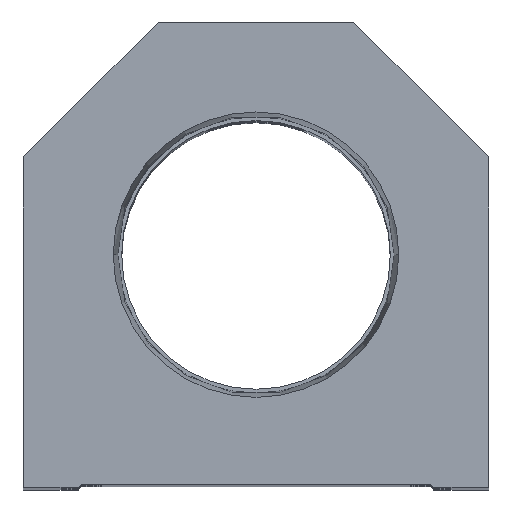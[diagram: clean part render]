
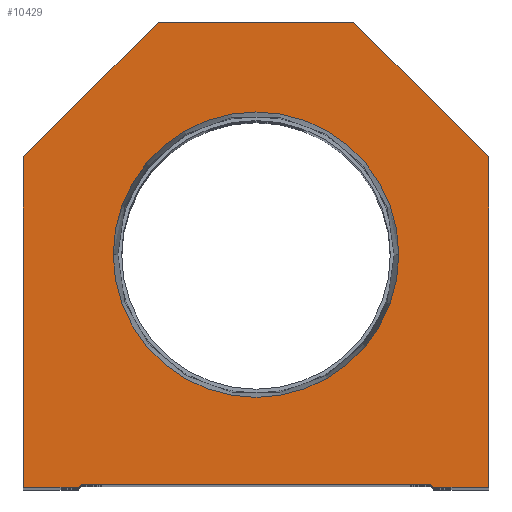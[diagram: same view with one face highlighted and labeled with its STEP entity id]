
A CAD part, top view. The second image highlights one B-rep face of the part: STEP entity #10429.
In plain terms, the highlighted planar face has unit normal (0, 0, 1).
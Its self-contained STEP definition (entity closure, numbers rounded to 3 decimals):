
#408 = EDGE_CURVE ( 'NONE', #15691, #12295, #13276, .T. ) ;
#600 = EDGE_CURVE ( 'NONE', #2834, #2072, #6414, .T. ) ;
#606 = CARTESIAN_POINT ( 'NONE',  ( 16., 76.2, 0. ) ) ;
#857 = CARTESIAN_POINT ( 'NONE',  ( 29.1, 0., 0. ) ) ;
#1021 = VECTOR ( 'NONE', #11331, 1000. ) ;
#1179 = VECTOR ( 'NONE', #1849, 1000. ) ;
#1185 = VECTOR ( 'NONE', #5841, 1000. ) ;
#1254 = DIRECTION ( 'NONE',  ( 0., 1., 0. ) ) ;
#1397 = CARTESIAN_POINT ( 'NONE',  ( 38.1, 54.1, 0. ) ) ;
#1460 = CARTESIAN_POINT ( 'NONE',  ( -23.374, 38.1, 0. ) ) ;
#1485 = DIRECTION ( 'NONE',  ( 0., 0., 1. ) ) ;
#1522 = CARTESIAN_POINT ( 'NONE',  ( -28.6, 0.5, 0. ) ) ;
#1622 = ORIENTED_EDGE ( 'NONE', *, *, #10546, .T. ) ;
#1788 = ORIENTED_EDGE ( 'NONE', *, *, #7908, .T. ) ;
#1849 = DIRECTION ( 'NONE',  ( 0.707, -0.707, 0. ) ) ;
#2072 = VERTEX_POINT ( 'NONE', #14737 ) ;
#2587 = CARTESIAN_POINT ( 'NONE',  ( 28.6, 0., 0. ) ) ;
#2834 = VERTEX_POINT ( 'NONE', #1460 ) ;
#2895 = EDGE_CURVE ( 'NONE', #12295, #12213, #6694, .T. ) ;
#2948 = DIRECTION ( 'NONE',  ( 0.707, 0.707, 0. ) ) ;
#3101 = CIRCLE ( 'NONE', #3351, 23.374 ) ;
#3147 = VERTEX_POINT ( 'NONE', #14233 ) ;
#3285 = CARTESIAN_POINT ( 'NONE',  ( -28.6, 0., 0. ) ) ;
#3351 = AXIS2_PLACEMENT_3D ( 'NONE', #16108, #1485, #9891 ) ;
#3411 = EDGE_CURVE ( 'NONE', #2072, #2834, #3101, .T. ) ;
#3690 = CARTESIAN_POINT ( 'NONE',  ( -38.1, 54.1, 0. ) ) ;
#3696 = VECTOR ( 'NONE', #12128, 1000. ) ;
#3832 = VERTEX_POINT ( 'NONE', #8226 ) ;
#4170 = EDGE_CURVE ( 'NONE', #5345, #3832, #9019, .T. ) ;
#4349 = VERTEX_POINT ( 'NONE', #12110 ) ;
#4432 = EDGE_CURVE ( 'NONE', #7852, #15691, #14974, .T. ) ;
#4821 = VECTOR ( 'NONE', #13397, 1000. ) ;
#5203 = CARTESIAN_POINT ( 'NONE',  ( 16., 76.2, 0. ) ) ;
#5345 = VERTEX_POINT ( 'NONE', #14497 ) ;
#5446 = LINE ( 'NONE', #15575, #6862 ) ;
#5684 = FACE_OUTER_BOUND ( 'NONE', #9205, .T. ) ;
#5751 = CARTESIAN_POINT ( 'NONE',  ( 38.1, 54.1, 0. ) ) ;
#5759 = ORIENTED_EDGE ( 'NONE', *, *, #9547, .T. ) ;
#5841 = DIRECTION ( 'NONE',  ( -0.707, 0.707, 0. ) ) ;
#5847 = VECTOR ( 'NONE', #7450, 1000. ) ;
#6300 = AXIS2_PLACEMENT_3D ( 'NONE', #8130, #12033, #7083 ) ;
#6414 = CIRCLE ( 'NONE', #9258, 23.374 ) ;
#6549 = ORIENTED_EDGE ( 'NONE', *, *, #4170, .T. ) ;
#6674 = DIRECTION ( 'NONE',  ( 1., 0., 0. ) ) ;
#6694 = LINE ( 'NONE', #5203, #1021 ) ;
#6742 = ORIENTED_EDGE ( 'NONE', *, *, #2895, .T. ) ;
#6792 = DIRECTION ( 'NONE',  ( 0., 0., 1. ) ) ;
#6862 = VECTOR ( 'NONE', #11710, 1000. ) ;
#6868 = ORIENTED_EDGE ( 'NONE', *, *, #4432, .T. ) ;
#7004 = PLANE ( 'NONE',  #6300 ) ;
#7083 = DIRECTION ( 'NONE',  ( 1., 0., 0. ) ) ;
#7119 = LINE ( 'NONE', #3285, #4821 ) ;
#7450 = DIRECTION ( 'NONE',  ( -0.707, -0.707, 0. ) ) ;
#7507 = CARTESIAN_POINT ( 'NONE',  ( 38.1, 0., 0. ) ) ;
#7659 = ORIENTED_EDGE ( 'NONE', *, *, #3411, .F. ) ;
#7849 = ORIENTED_EDGE ( 'NONE', *, *, #12616, .T. ) ;
#7852 = VERTEX_POINT ( 'NONE', #7507 ) ;
#7908 = EDGE_CURVE ( 'NONE', #3147, #4349, #5446, .T. ) ;
#8055 = LINE ( 'NONE', #13050, #1179 ) ;
#8130 = CARTESIAN_POINT ( 'NONE',  ( 0., 0., 0. ) ) ;
#8226 = CARTESIAN_POINT ( 'NONE',  ( 28.6, 0.5, 0. ) ) ;
#8447 = CARTESIAN_POINT ( 'NONE',  ( 38.1, 0., 0. ) ) ;
#8464 = VECTOR ( 'NONE', #1254, 1000. ) ;
#9019 = LINE ( 'NONE', #1522, #14979 ) ;
#9127 = CARTESIAN_POINT ( 'NONE',  ( -14.55, 14.55, 0. ) ) ;
#9205 = EDGE_LOOP ( 'NONE', ( #7849, #14481, #6549, #11771, #1622, #6868, #10152, #6742, #5759, #1788 ) ) ;
#9258 = AXIS2_PLACEMENT_3D ( 'NONE', #15682, #6792, #9466 ) ;
#9466 = DIRECTION ( 'NONE',  ( 1., 0., 0. ) ) ;
#9547 = EDGE_CURVE ( 'NONE', #12213, #3147, #16106, .T. ) ;
#9891 = DIRECTION ( 'NONE',  ( 1., 0., 0. ) ) ;
#9952 = VERTEX_POINT ( 'NONE', #14270 ) ;
#9981 = EDGE_CURVE ( 'NONE', #3832, #10312, #8055, .T. ) ;
#10152 = ORIENTED_EDGE ( 'NONE', *, *, #408, .T. ) ;
#10312 = VERTEX_POINT ( 'NONE', #857 ) ;
#10429 = ADVANCED_FACE ( 'NONE', ( #11879, #5684 ), #7004, .T. ) ;
#10481 = EDGE_LOOP ( 'NONE', ( #7659, #10747 ) ) ;
#10546 = EDGE_CURVE ( 'NONE', #10312, #7852, #13521, .T. ) ;
#10747 = ORIENTED_EDGE ( 'NONE', *, *, #600, .F. ) ;
#10830 = CARTESIAN_POINT ( 'NONE',  ( -16., 76.2, 0. ) ) ;
#11331 = DIRECTION ( 'NONE',  ( -1., 0., 0. ) ) ;
#11710 = DIRECTION ( 'NONE',  ( 0., -1., 0. ) ) ;
#11771 = ORIENTED_EDGE ( 'NONE', *, *, #9981, .T. ) ;
#11879 = FACE_BOUND ( 'NONE', #10481, .T. ) ;
#12033 = DIRECTION ( 'NONE',  ( 0., 0., 1. ) ) ;
#12110 = CARTESIAN_POINT ( 'NONE',  ( -38.1, 0., 0. ) ) ;
#12128 = DIRECTION ( 'NONE',  ( 1., 0., 0. ) ) ;
#12213 = VERTEX_POINT ( 'NONE', #10830 ) ;
#12295 = VERTEX_POINT ( 'NONE', #606 ) ;
#12616 = EDGE_CURVE ( 'NONE', #4349, #9952, #7119, .T. ) ;
#13050 = CARTESIAN_POINT ( 'NONE',  ( 14.55, 14.55, 0. ) ) ;
#13276 = LINE ( 'NONE', #5751, #1185 ) ;
#13397 = DIRECTION ( 'NONE',  ( 1., 0., 0. ) ) ;
#13521 = LINE ( 'NONE', #2587, #3696 ) ;
#14233 = CARTESIAN_POINT ( 'NONE',  ( -38.1, 54.1, 0. ) ) ;
#14270 = CARTESIAN_POINT ( 'NONE',  ( -29.1, 0., 0. ) ) ;
#14481 = ORIENTED_EDGE ( 'NONE', *, *, #15860, .T. ) ;
#14497 = CARTESIAN_POINT ( 'NONE',  ( -28.6, 0.5, 0. ) ) ;
#14737 = CARTESIAN_POINT ( 'NONE',  ( 23.374, 38.1, 0. ) ) ;
#14974 = LINE ( 'NONE', #8447, #8464 ) ;
#14979 = VECTOR ( 'NONE', #6674, 1000. ) ;
#15343 = LINE ( 'NONE', #9127, #15464 ) ;
#15464 = VECTOR ( 'NONE', #2948, 1000. ) ;
#15575 = CARTESIAN_POINT ( 'NONE',  ( -38.1, 0., 0. ) ) ;
#15682 = CARTESIAN_POINT ( 'NONE',  ( 0., 38.1, 0. ) ) ;
#15691 = VERTEX_POINT ( 'NONE', #1397 ) ;
#15860 = EDGE_CURVE ( 'NONE', #9952, #5345, #15343, .T. ) ;
#16106 = LINE ( 'NONE', #3690, #5847 ) ;
#16108 = CARTESIAN_POINT ( 'NONE',  ( 0., 38.1, 0. ) ) ;
